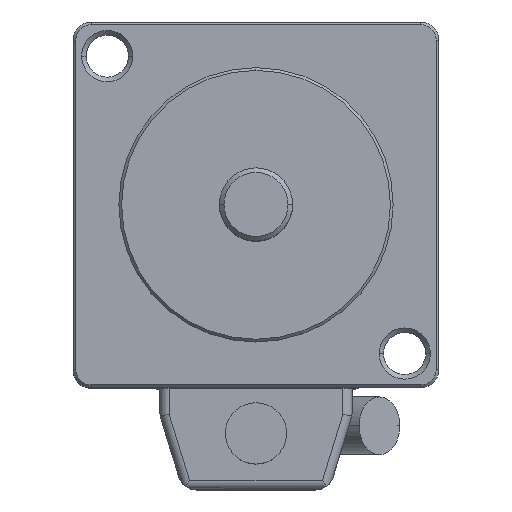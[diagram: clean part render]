
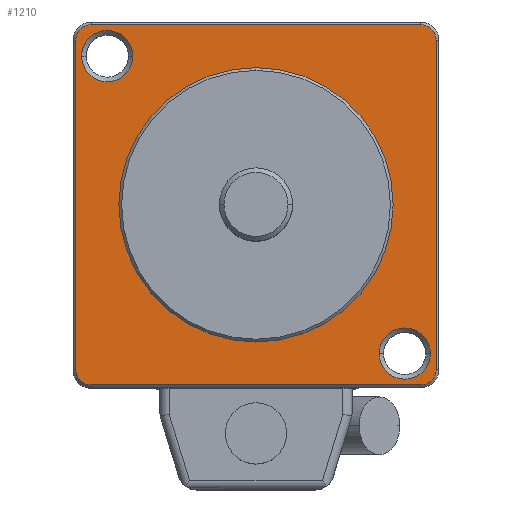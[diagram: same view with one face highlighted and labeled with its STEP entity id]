
A CAD part, top view. The second image highlights one B-rep face of the part: STEP entity #1210.
In plain terms, the highlighted planar face has unit normal (0, 0, 1).
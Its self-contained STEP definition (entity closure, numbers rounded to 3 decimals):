
#10=CARTESIAN_POINT('',(-19.7,-19.7,0.));
#20=DIRECTION('',(0.,0.,1.));
#30=DIRECTION('',(1.,0.,0.));
#40=AXIS2_PLACEMENT_3D('',#10,#20,#30);
#50=PLANE('',#40);
#60=CARTESIAN_POINT('',(-18.,18.,0.));
#70=DIRECTION('',(0.,0.,-1.));
#80=DIRECTION('',(-1.,0.,0.));
#90=AXIS2_PLACEMENT_3D('',#60,#70,#80);
#100=CIRCLE('',#90,1.7);
#110=CARTESIAN_POINT('',(-19.7,18.,0.));
#120=VERTEX_POINT('',#110);
#130=CARTESIAN_POINT('',(-18.,19.7,0.));
#140=VERTEX_POINT('',#130);
#150=EDGE_CURVE('',#120,#140,#100,.T.);
#160=ORIENTED_EDGE('',*,*,#150,.F.);
#170=CARTESIAN_POINT('',(0.,19.7,0.));
#180=DIRECTION('',(1.,0.,0.));
#190=VECTOR('',#180,1.);
#200=LINE('',#170,#190);
#210=CARTESIAN_POINT('',(18.,19.7,0.));
#220=VERTEX_POINT('',#210);
#230=EDGE_CURVE('',#140,#220,#200,.T.);
#240=ORIENTED_EDGE('',*,*,#230,.F.);
#250=CARTESIAN_POINT('',(18.,18.,0.));
#260=DIRECTION('',(0.,0.,-1.));
#270=DIRECTION('',(-1.,0.,0.));
#280=AXIS2_PLACEMENT_3D('',#250,#260,#270);
#290=CIRCLE('',#280,1.7);
#300=CARTESIAN_POINT('',(19.7,18.,0.));
#310=VERTEX_POINT('',#300);
#320=EDGE_CURVE('',#220,#310,#290,.T.);
#330=ORIENTED_EDGE('',*,*,#320,.F.);
#340=CARTESIAN_POINT('',(19.7,0.,0.));
#350=DIRECTION('',(0.,-1.,0.));
#360=VECTOR('',#350,1.);
#370=LINE('',#340,#360);
#380=CARTESIAN_POINT('',(19.7,-18.,0.));
#390=VERTEX_POINT('',#380);
#400=EDGE_CURVE('',#310,#390,#370,.T.);
#410=ORIENTED_EDGE('',*,*,#400,.F.);
#420=CARTESIAN_POINT('',(18.,-18.,0.));
#430=DIRECTION('',(0.,0.,-1.));
#440=DIRECTION('',(-1.,0.,0.));
#450=AXIS2_PLACEMENT_3D('',#420,#430,#440);
#460=CIRCLE('',#450,1.7);
#470=CARTESIAN_POINT('',(18.,-19.7,0.));
#480=VERTEX_POINT('',#470);
#490=EDGE_CURVE('',#390,#480,#460,.T.);
#500=ORIENTED_EDGE('',*,*,#490,.F.);
#510=CARTESIAN_POINT('',(0.,-19.7,0.));
#520=DIRECTION('',(-1.,0.,0.));
#530=VECTOR('',#520,1.);
#540=LINE('',#510,#530);
#550=CARTESIAN_POINT('',(-18.,-19.7,0.));
#560=VERTEX_POINT('',#550);
#570=EDGE_CURVE('',#480,#560,#540,.T.);
#580=ORIENTED_EDGE('',*,*,#570,.F.);
#590=CARTESIAN_POINT('',(-18.,-18.,0.));
#600=DIRECTION('',(0.,0.,-1.));
#610=DIRECTION('',(-1.,0.,0.));
#620=AXIS2_PLACEMENT_3D('',#590,#600,#610);
#630=CIRCLE('',#620,1.7);
#640=CARTESIAN_POINT('',(-19.7,-18.,0.));
#650=VERTEX_POINT('',#640);
#660=EDGE_CURVE('',#560,#650,#630,.T.);
#670=ORIENTED_EDGE('',*,*,#660,.F.);
#680=CARTESIAN_POINT('',(-19.7,0.,0.));
#690=DIRECTION('',(0.,1.,0.));
#700=VECTOR('',#690,1.);
#710=LINE('',#680,#700);
#720=EDGE_CURVE('',#650,#120,#710,.T.);
#730=ORIENTED_EDGE('',*,*,#720,.F.);
#740=EDGE_LOOP('',(#730,#670,#580,#500,#410,#330,#240,#160));
#750=FACE_OUTER_BOUND('',#740,.T.);
#760=CARTESIAN_POINT('',(0.,0.,0.));
#770=DIRECTION('',(0.,0.,1.));
#780=DIRECTION('',(1.,0.,0.));
#790=AXIS2_PLACEMENT_3D('',#760,#770,#780);
#800=CIRCLE('',#790,15.);
#810=CARTESIAN_POINT('',(-15.,0.,0.));
#820=VERTEX_POINT('',#810);
#830=CARTESIAN_POINT('',(15.,0.,0.));
#840=VERTEX_POINT('',#830);
#850=EDGE_CURVE('',#820,#840,#800,.T.);
#860=ORIENTED_EDGE('',*,*,#850,.F.);
#870=EDGE_CURVE('',#840,#820,#800,.T.);
#880=ORIENTED_EDGE('',*,*,#870,.F.);
#890=EDGE_LOOP('',(#880,#860));
#900=FACE_BOUND('',#890,.T.);
#910=CARTESIAN_POINT('',(-16.263,16.263,
0.));
#920=DIRECTION('',(0.,0.,1.));
#930=DIRECTION('',(1.,0.,0.));
#940=AXIS2_PLACEMENT_3D('',#910,#920,#930);
#950=CIRCLE('',#940,2.8);
#960=CARTESIAN_POINT('',(-19.063,16.263,
0.));
#970=VERTEX_POINT('',#960);
#980=CARTESIAN_POINT('',(-13.463,16.263,
0.));
#990=VERTEX_POINT('',#980);
#1000=EDGE_CURVE('',#970,#990,#950,.T.);
#1010=ORIENTED_EDGE('',*,*,#1000,.F.);
#1020=EDGE_CURVE('',#990,#970,#950,.T.);
#1030=ORIENTED_EDGE('',*,*,#1020,.F.);
#1040=EDGE_LOOP('',(#1030,#1010));
#1050=FACE_BOUND('',#1040,.T.);
#1060=CARTESIAN_POINT('',(16.263,-16.263,
0.));
#1070=DIRECTION('',(0.,0.,1.));
#1080=DIRECTION('',(1.,0.,0.));
#1090=AXIS2_PLACEMENT_3D('',#1060,#1070,#1080);
#1100=CIRCLE('',#1090,2.8);
#1110=CARTESIAN_POINT('',(13.463,-16.263,
0.));
#1120=VERTEX_POINT('',#1110);
#1130=CARTESIAN_POINT('',(19.063,-16.263,
0.));
#1140=VERTEX_POINT('',#1130);
#1150=EDGE_CURVE('',#1120,#1140,#1100,.T.);
#1160=ORIENTED_EDGE('',*,*,#1150,.F.);
#1170=EDGE_CURVE('',#1140,#1120,#1100,.T.);
#1180=ORIENTED_EDGE('',*,*,#1170,.F.);
#1190=EDGE_LOOP('',(#1180,#1160));
#1200=FACE_BOUND('',#1190,.T.);
#1210=ADVANCED_FACE('',(#750,#900,#1050,#1200),#50,.T.);
